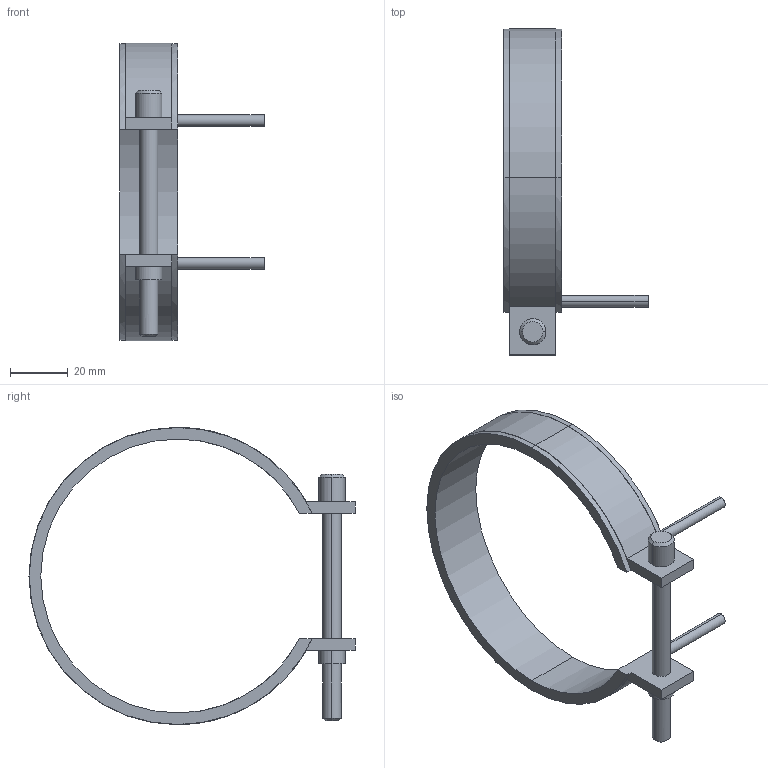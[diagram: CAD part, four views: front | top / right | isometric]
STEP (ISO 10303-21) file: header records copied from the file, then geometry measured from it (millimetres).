
FILE_DESCRIPTION(('CATIA V5 STEP Exchange'),'2;1');
FILE_NAME('C:\Users\Utente\Desktop\IO LAVORO\3D X SITO CF\X SITO\PLASTICA\RF2\14095020.stp','2021-04-06T16:07:36+00:00',('none'),('none'),'CATIA Version 5 Release 20 GA (IN-10)','CATIA V5 STEP AP203','none');
FILE_SCHEMA(('CONFIG_CONTROL_DESIGN'));
Length unit declared in the file: millimetre
Products named in the file (1): 14095020
Bounding box: 50 x 113.1 x 103.2 mm (x, y, z)
Volume: 27378 mm3; surface area: 16582.4 mm2
Topology: 1 solids, 1 shells, 45 faces, 116 edges, 76 vertices
Faces by surface type: cylinder 24, plane 17, cone 4
Entity records: 1406 total; most frequent: CARTESIAN_POINT 282, ORIENTED_EDGE 232, DIRECTION 195, EDGE_CURVE 116, AXIS2_PLACEMENT_3D 103, VERTEX_POINT 76, CIRCLE 61, VECTOR 52
